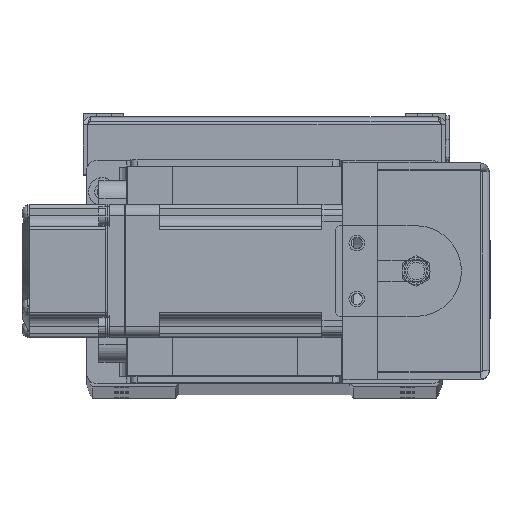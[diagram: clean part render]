
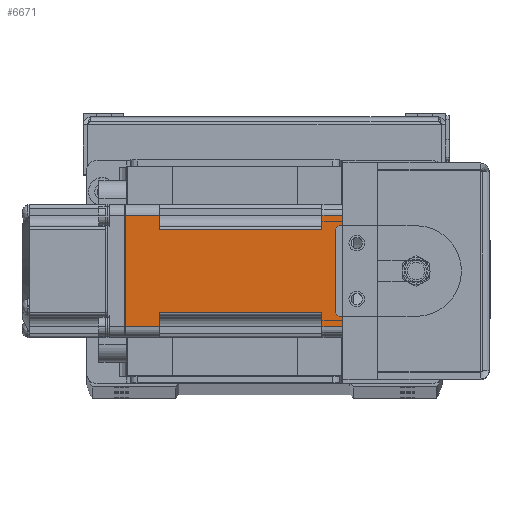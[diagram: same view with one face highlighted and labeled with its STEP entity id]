
A CAD part, top view. The second image highlights one B-rep face of the part: STEP entity #6671.
In plain terms, the highlighted planar face has unit normal (0, 0, 1) as drawn and (0, -1, 0) by its records, which use the part's own axes.
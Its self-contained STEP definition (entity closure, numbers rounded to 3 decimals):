
#47 = CARTESIAN_POINT ( 'NONE',  ( -6., -19., 11.85 ) ) ;
#196 = CARTESIAN_POINT ( 'NONE',  ( -6., -19., -11.85 ) ) ;
#500 = DIRECTION ( 'NONE',  ( 0., 0., -1. ) ) ;
#1174 = DIRECTION ( 'NONE',  ( 1., 0., 0. ) ) ;
#1650 = VECTOR ( 'NONE', #31786, 1000. ) ;
#2048 = CARTESIAN_POINT ( 'NONE',  ( -52.5, -19., 16. ) ) ;
#2198 = VERTEX_POINT ( 'NONE', #36619 ) ;
#2292 = DIRECTION ( 'NONE',  ( -1., 0., 0. ) ) ;
#2337 = LINE ( 'NONE', #11455, #17841 ) ;
#2366 = EDGE_LOOP ( 'NONE', ( #31490, #17017, #20847, #35826, #20898, #37817, #10042, #25416, #22925, #5511, #30717, #5598 ) ) ;
#2848 = CARTESIAN_POINT ( 'NONE',  ( -52.5, -19., -16. ) ) ;
#4152 = PLANE ( 'NONE',  #20716 ) ;
#4770 = LINE ( 'NONE', #196, #23638 ) ;
#4955 = LINE ( 'NONE', #7935, #15203 ) ;
#5208 = VERTEX_POINT ( 'NONE', #20587 ) ;
#5511 = ORIENTED_EDGE ( 'NONE', *, *, #31484, .T. ) ;
#5598 = ORIENTED_EDGE ( 'NONE', *, *, #26372, .T. ) ;
#6671 = ADVANCED_FACE ( 'NONE', ( #16203 ), #4152, .T. ) ;
#7897 = VERTEX_POINT ( 'NONE', #21782 ) ;
#7935 = CARTESIAN_POINT ( 'NONE',  ( -6., -19., -16. ) ) ;
#8867 = VERTEX_POINT ( 'NONE', #13598 ) ;
#9419 = CARTESIAN_POINT ( 'NONE',  ( -6., -19., -16. ) ) ;
#9454 = VECTOR ( 'NONE', #28936, 1000. ) ;
#10042 = ORIENTED_EDGE ( 'NONE', *, *, #24928, .T. ) ;
#10091 = CARTESIAN_POINT ( 'NONE',  ( -6., -19., -16. ) ) ;
#10453 = LINE ( 'NONE', #16978, #37564 ) ;
#10483 = LINE ( 'NONE', #10091, #13134 ) ;
#10683 = EDGE_CURVE ( 'NONE', #5208, #2198, #4955, .T. ) ;
#10965 = CARTESIAN_POINT ( 'NONE',  ( -6., -19., -11.85 ) ) ;
#11275 = CARTESIAN_POINT ( 'NONE',  ( -6., -19., 16. ) ) ;
#11455 = CARTESIAN_POINT ( 'NONE',  ( -6., -19., -16. ) ) ;
#11678 = DIRECTION ( 'NONE',  ( 1., 0., 0. ) ) ;
#12293 = LINE ( 'NONE', #18427, #35025 ) ;
#12563 = VERTEX_POINT ( 'NONE', #31391 ) ;
#13063 = EDGE_CURVE ( 'NONE', #33478, #36031, #26170, .T. ) ;
#13134 = VECTOR ( 'NONE', #1174, 1000. ) ;
#13142 = EDGE_CURVE ( 'NONE', #36031, #8867, #26542, .T. ) ;
#13598 = CARTESIAN_POINT ( 'NONE',  ( -62.48, -19., -16. ) ) ;
#13624 = EDGE_CURVE ( 'NONE', #22130, #28948, #17890, .T. ) ;
#14721 = VECTOR ( 'NONE', #27027, 1000. ) ;
#15203 = VECTOR ( 'NONE', #11678, 1000. ) ;
#16203 = FACE_OUTER_BOUND ( 'NONE', #2366, .T. ) ;
#16830 = CARTESIAN_POINT ( 'NONE',  ( -62.48, -19., -16. ) ) ;
#16978 = CARTESIAN_POINT ( 'NONE',  ( -52.5, -19., -16. ) ) ;
#17017 = ORIENTED_EDGE ( 'NONE', *, *, #13063, .T. ) ;
#17490 = EDGE_CURVE ( 'NONE', #7897, #25862, #36602, .T. ) ;
#17841 = VECTOR ( 'NONE', #23542, 1000. ) ;
#17890 = LINE ( 'NONE', #2848, #14721 ) ;
#18423 = DIRECTION ( 'NONE',  ( 1., 0., 0. ) ) ;
#18427 = CARTESIAN_POINT ( 'NONE',  ( -6., -19., 11.85 ) ) ;
#18480 = CARTESIAN_POINT ( 'NONE',  ( -62.48, -19., 16. ) ) ;
#19790 = VERTEX_POINT ( 'NONE', #34873 ) ;
#19878 = LINE ( 'NONE', #35546, #1650 ) ;
#20587 = CARTESIAN_POINT ( 'NONE',  ( -6., -19., -16. ) ) ;
#20693 = EDGE_CURVE ( 'NONE', #8867, #22130, #10483, .T. ) ;
#20716 = AXIS2_PLACEMENT_3D ( 'NONE', #31104, #25361, #37455 ) ;
#20847 = ORIENTED_EDGE ( 'NONE', *, *, #13142, .T. ) ;
#20898 = ORIENTED_EDGE ( 'NONE', *, *, #13624, .T. ) ;
#21243 = CARTESIAN_POINT ( 'NONE',  ( -52.5, -19., -11.85 ) ) ;
#21782 = CARTESIAN_POINT ( 'NONE',  ( -6., -19., 16. ) ) ;
#22130 = VERTEX_POINT ( 'NONE', #36969 ) ;
#22925 = ORIENTED_EDGE ( 'NONE', *, *, #28905, .T. ) ;
#23542 = DIRECTION ( 'NONE',  ( 0., 0., -1. ) ) ;
#23638 = VECTOR ( 'NONE', #18423, 1000. ) ;
#24426 = VECTOR ( 'NONE', #500, 1000. ) ;
#24682 = VECTOR ( 'NONE', #35282, 1000. ) ;
#24928 = EDGE_CURVE ( 'NONE', #33418, #5208, #2337, .T. ) ;
#25282 = EDGE_CURVE ( 'NONE', #28948, #33418, #4770, .T. ) ;
#25361 = DIRECTION ( 'NONE',  ( 0., -1., 0. ) ) ;
#25416 = ORIENTED_EDGE ( 'NONE', *, *, #10683, .T. ) ;
#25862 = VERTEX_POINT ( 'NONE', #47 ) ;
#26170 = LINE ( 'NONE', #11275, #24682 ) ;
#26372 = EDGE_CURVE ( 'NONE', #25862, #12563, #12293, .T. ) ;
#26542 = LINE ( 'NONE', #16830, #9454 ) ;
#27027 = DIRECTION ( 'NONE',  ( 0., 0., 1. ) ) ;
#28905 = EDGE_CURVE ( 'NONE', #2198, #19790, #19878, .T. ) ;
#28936 = DIRECTION ( 'NONE',  ( 0., 0., -1. ) ) ;
#28948 = VERTEX_POINT ( 'NONE', #21243 ) ;
#30538 = DIRECTION ( 'NONE',  ( -1., 0., 0. ) ) ;
#30717 = ORIENTED_EDGE ( 'NONE', *, *, #17490, .T. ) ;
#31104 = CARTESIAN_POINT ( 'NONE',  ( -6., -19., -16. ) ) ;
#31391 = CARTESIAN_POINT ( 'NONE',  ( -52.5, -19., 11.85 ) ) ;
#31484 = EDGE_CURVE ( 'NONE', #19790, #7897, #33203, .T. ) ;
#31485 = VECTOR ( 'NONE', #2292, 1000. ) ;
#31490 = ORIENTED_EDGE ( 'NONE', *, *, #38957, .T. ) ;
#31786 = DIRECTION ( 'NONE',  ( 0., 0., 1. ) ) ;
#32626 = CARTESIAN_POINT ( 'NONE',  ( -6., -19., 16. ) ) ;
#33203 = LINE ( 'NONE', #32626, #31485 ) ;
#33418 = VERTEX_POINT ( 'NONE', #10965 ) ;
#33478 = VERTEX_POINT ( 'NONE', #2048 ) ;
#34873 = CARTESIAN_POINT ( 'NONE',  ( 0., -19., 16. ) ) ;
#35025 = VECTOR ( 'NONE', #30538, 1000. ) ;
#35248 = DIRECTION ( 'NONE',  ( 0., 0., 1. ) ) ;
#35282 = DIRECTION ( 'NONE',  ( -1., 0., 0. ) ) ;
#35546 = CARTESIAN_POINT ( 'NONE',  ( 0., -19., -16. ) ) ;
#35826 = ORIENTED_EDGE ( 'NONE', *, *, #20693, .T. ) ;
#36031 = VERTEX_POINT ( 'NONE', #18480 ) ;
#36602 = LINE ( 'NONE', #9419, #24426 ) ;
#36619 = CARTESIAN_POINT ( 'NONE',  ( 0., -19., -16. ) ) ;
#36969 = CARTESIAN_POINT ( 'NONE',  ( -52.5, -19., -16. ) ) ;
#37455 = DIRECTION ( 'NONE',  ( 0., 0., -1. ) ) ;
#37564 = VECTOR ( 'NONE', #35248, 1000. ) ;
#37817 = ORIENTED_EDGE ( 'NONE', *, *, #25282, .T. ) ;
#38957 = EDGE_CURVE ( 'NONE', #12563, #33478, #10453, .T. ) ;
